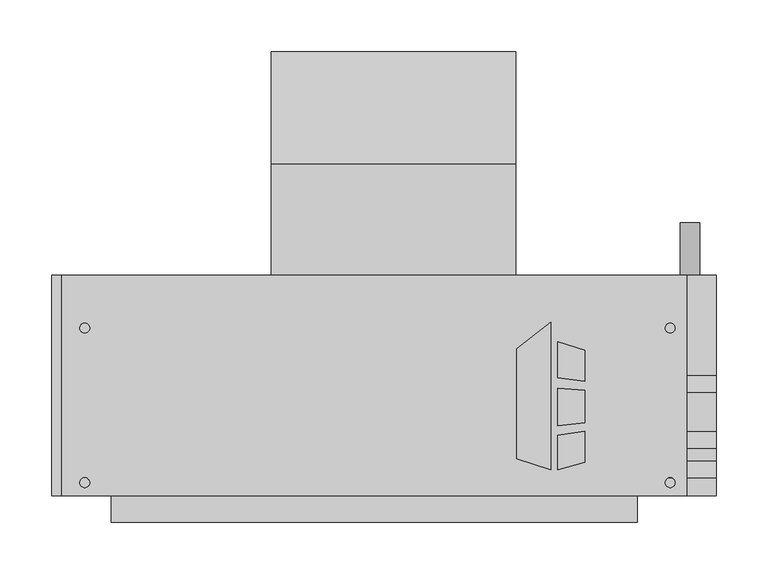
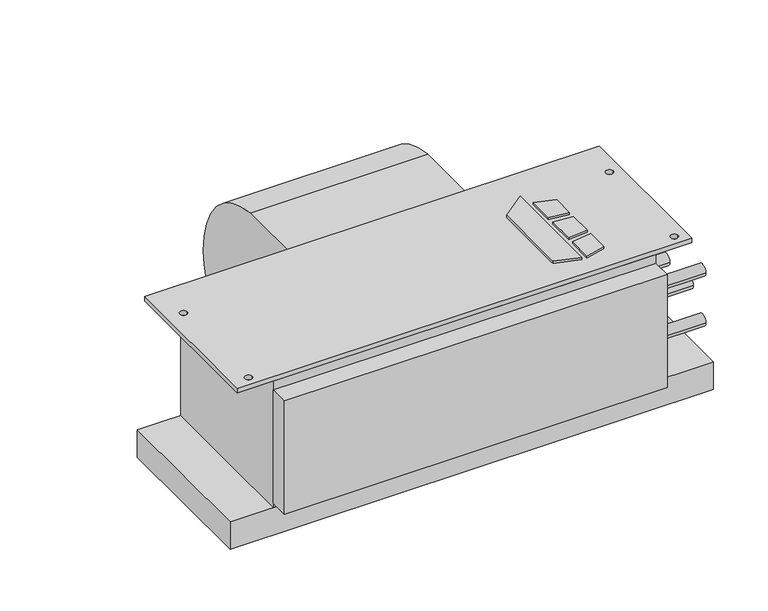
"""IFC4 building model written with IfcOpenShell, lengths in millimetres: proxy geometry, Concealed_Horizontal_Fan_Coil_Unit_-_CHY_-_IEC_-_4-Pipe_RH_2022 : Size 03 - 277v/60Hz/1Ph - 4/1 Coil."""

from ifc_helpers import new_model, si_unit, point, frame, frame_2d, origin, origin_with_axes, place, context, project, spatial, polyline, circle_curve, trimmed, segment, composite_curve, outline, extrude, source, transform, mapped, element, save


def mechanical_equipment_e5550dfa(model_context):
    return source(origin(), model_context, "Body", "SweptSolid", [
        extrude(outline(polyline([(290.2019761, -202.5703476), (322.7602728, -177.1330184), (322.7602728, -319.0875), (290.2019761, -308.8679201), (290.2019761, -202.5703476)])), origin_with_axes(), (0.0, 0.0, 1.0), 3.175),
        extrude(outline(polyline([(329.5186058, -230.442352), (329.5186058, -195.9624379), (355.6, -204.1490115), (355.6, -233.6447446), (329.5186058, -230.442352)])), origin_with_axes(), (0.0, 0.0, 1.0), 3.175),
        extrude(outline(polyline([(355.6, -312.0990115), (329.5186058, -319.0875), (329.5186058, -285.8661996), (355.6, -282.3243564), (355.6, -312.0990115)])), origin_with_axes(), (0.0, 0.0, 1.0), 3.175),
        extrude(outline(polyline([(355.6, -242.7263277), (355.6, -273.976483), (329.5186058, -276.717748), (329.5186058, -240.8600378), (355.6, -242.7263277)])), origin_with_axes(), (0.0, 0.0, 1.0), 3.175),
        extrude(outline(composite_curve([segment(trimmed(circle_curve(frame_2d((-33.198831, -136.0299844)), 117.3559541), [point((-23.8125, -19.05))], [point((84.1375, -138.176))], False, "CARTESIAN"), True, "CONTINUOUS"), segment(trimmed(circle_curve(frame_2d((-11.5977337, -136.4250563)), 95.7512443), [point((84.1375, -138.176))], [point((-23.8125, -231.394))], False, "CARTESIAN"), True, "CONTINUOUS"), segment(trimmed(circle_curve(frame_2d((-11.6288131, -136.6666968)), 95.5076133), [point((-23.8125, -231.394))], [point((-107.1245, -138.176))], False, "CARTESIAN"), True, "CONTINUOUS"), segment(trimmed(circle_curve(frame_2d((-126.2059828, -138.4775816)), 19.0838659), [point((-107.1245, -138.176))], [point((-119.3963373, -120.65))], True, "CARTESIAN"), True, "CONTINUOUS"), segment(polyline([(-119.3963373, -120.65), (-131.7625, -120.65), (-131.7625, -19.05), (-23.8125, -19.05)]), True, "CONTINUOUS")], self_intersect=False)), frame((53.213, 0.0, 0.0), z_axis=(1.0, 0.0, 0.0), x_axis=(0.0, 1.0, 0.0)), (0.0, 0.0, 1.0), 235.712),
        extrude(outline(polyline([(454.025, -131.7625), (454.025, -344.4875), (-149.225, -344.4875), (-149.225, -131.7625), (454.025, -131.7625)]), holes=[composite_curve([segment(trimmed(circle_curve(frame_2d((-127.0, -182.5625)), 4.7625), [point((-131.7625, -182.5625))], [point((-122.2375, -182.5625))], True, "CARTESIAN"), True, "CONTINUOUS"), segment(trimmed(circle_curve(frame_2d((-127.0, -182.5625)), 4.7625), [point((-122.2375, -182.5625))], [point((-131.7625, -182.5625))], True, "CARTESIAN"), True, "CONTINUOUS")], self_intersect=False), composite_curve([segment(trimmed(circle_curve(frame_2d((-127.0, -331.7875)), 4.7625), [point((-131.7625, -331.7875))], [point((-122.2375, -331.7875))], True, "CARTESIAN"), True, "CONTINUOUS"), segment(trimmed(circle_curve(frame_2d((-127.0, -331.7875)), 4.7625), [point((-122.2375, -331.7875))], [point((-131.7625, -331.7875))], True, "CARTESIAN"), True, "CONTINUOUS")], self_intersect=False), composite_curve([segment(trimmed(circle_curve(frame_2d((438.15, -182.5625)), 4.7625), [point((433.3875, -182.5625))], [point((442.9125, -182.5625))], True, "CARTESIAN"), True, "CONTINUOUS"), segment(trimmed(circle_curve(frame_2d((438.15, -182.5625)), 4.7625), [point((442.9125, -182.5625))], [point((433.3875, -182.5625))], True, "CARTESIAN"), True, "CONTINUOUS")], self_intersect=False), composite_curve([segment(trimmed(circle_curve(frame_2d((438.15, -331.7875)), 4.7625), [point((433.3875, -331.7875))], [point((442.9125, -331.7875))], True, "CARTESIAN"), True, "CONTINUOUS"), segment(trimmed(circle_curve(frame_2d((438.15, -331.7875)), 4.7625), [point((442.9125, -331.7875))], [point((433.3875, -331.7875))], True, "CARTESIAN"), True, "CONTINUOUS")], self_intersect=False)]), frame((0.0, 0.0, -6.35), z_axis=(0.0, 0.0, 1.0), x_axis=(1.0, 0.0, 0.0)), (0.0, 0.0, 1.0), 6.35),
        extrude(outline(composite_curve([segment(trimmed(circle_curve(frame_2d((-209.55, 457.2)), 9.525), [point((-209.55, 447.675))], [point((-209.55, 466.725))], False, "CARTESIAN"), True, "CONTINUOUS"), segment(trimmed(circle_curve(frame_2d((-209.55, 457.2)), 9.525), [point((-209.55, 466.725))], [point((-209.55, 447.675))], False, "CARTESIAN"), True, "CONTINUOUS")], self_intersect=False)), frame((0.0, -131.7625, 0.0), z_axis=(0.0, 1.0, 0.0), x_axis=(0.0, 0.0, 1.0)), (0.0, 0.0, 1.0), 50.8),
        extrude(outline(polyline([(406.4, -369.8875), (-101.6, -369.8875), (-101.6, -344.4875), (406.4, -344.4875), (406.4, -369.8875)])), frame((0.0, 0.0, -177.8), z_axis=(0.0, 0.0, 1.0), x_axis=(1.0, 0.0, 0.0)), (0.0, 0.0, 1.0), 158.75),
        extrude(outline(polyline([(482.6, -131.7625), (482.6, -344.4875), (-158.75, -344.4875), (-158.75, -131.7625), (482.6, -131.7625)])), frame((0.0, 0.0, -222.25), z_axis=(0.0, 0.0, 1.0), x_axis=(1.0, 0.0, 0.0)), (0.0, 0.0, 1.0), 38.1),
        extrude(outline(composite_curve([segment(trimmed(circle_curve(frame_2d((-236.5375, -104.775)), 7.9375), [point((-244.475, -104.775))], [point((-228.6, -104.775))], False, "CARTESIAN"), True, "CONTINUOUS"), segment(trimmed(circle_curve(frame_2d((-236.5375, -104.775)), 7.9375), [point((-228.6, -104.775))], [point((-244.475, -104.775))], False, "CARTESIAN"), True, "CONTINUOUS")], self_intersect=False)), frame((406.4, 0.0, 0.0), z_axis=(1.0, 0.0, 0.0), x_axis=(0.0, 1.0, 0.0)), (0.0, 0.0, 1.0), 76.2),
        extrude(outline(composite_curve([segment(trimmed(circle_curve(frame_2d((-290.5125, -104.775)), 7.9375), [point((-298.45, -104.775))], [point((-282.575, -104.775))], False, "CARTESIAN"), True, "CONTINUOUS"), segment(trimmed(circle_curve(frame_2d((-290.5125, -104.775)), 7.9375), [point((-282.575, -104.775))], [point((-298.45, -104.775))], False, "CARTESIAN"), True, "CONTINUOUS")], self_intersect=False)), frame((406.4, 0.0, 0.0), z_axis=(1.0, 0.0, 0.0), x_axis=(0.0, 1.0, 0.0)), (0.0, 0.0, 1.0), 76.2),
        extrude(outline(composite_curve([segment(trimmed(circle_curve(frame_2d((-319.0875, -69.85)), 7.9375), [point((-327.025, -69.85))], [point((-311.15, -69.85))], False, "CARTESIAN"), True, "CONTINUOUS"), segment(trimmed(circle_curve(frame_2d((-319.0875, -69.85)), 7.9375), [point((-311.15, -69.85))], [point((-327.025, -69.85))], False, "CARTESIAN"), True, "CONTINUOUS")], self_intersect=False)), frame((406.4, 0.0, 0.0), z_axis=(1.0, 0.0, 0.0), x_axis=(0.0, 1.0, 0.0)), (0.0, 0.0, 1.0), 76.2),
        extrude(outline(composite_curve([segment(trimmed(circle_curve(frame_2d((-319.0875, -139.7)), 7.9375), [point((-327.025, -139.7))], [point((-311.15, -139.7))], False, "CARTESIAN"), True, "CONTINUOUS"), segment(trimmed(circle_curve(frame_2d((-319.0875, -139.7)), 7.9375), [point((-311.15, -139.7))], [point((-327.025, -139.7))], False, "CARTESIAN"), True, "CONTINUOUS")], self_intersect=False)), frame((406.4, 0.0, 0.0), z_axis=(1.0, 0.0, 0.0), x_axis=(0.0, 1.0, 0.0)), (0.0, 0.0, 1.0), 76.2),
        extrude(outline(polyline([(406.4, -344.4875), (-101.6, -344.4875), (-101.6, -131.7625), (406.4, -131.7625), (406.4, -344.4875)])), frame((0.0, 0.0, -184.15), z_axis=(0.0, 0.0, 1.0), x_axis=(1.0, 0.0, 0.0)), (0.0, 0.0, 1.0), 177.8),
    ])


if __name__ == "__main__":
    model = new_model("IFC4")
    model_context = context("Model", 3, world=origin())
    ifc_project = project(units=[si_unit("LENGTHUNIT", "METRE", prefix="MILLI")], contexts=[model_context])
    site = spatial("IfcSite", under=ifc_project)
    building = spatial("IfcBuilding", under=site)
    placement = place(None, origin())
    mechanical_equipment_shape = mechanical_equipment_e5550dfa(model_context)
    element("IfcBuildingElementProxy", 1, Name="Concealed_Horizontal_Fan_Coil_Unit_-_CHY_-_IEC_-_4-Pipe_RH_2022 : Size 03 - 277v/60Hz/1Ph - 4/1 Coil", ObjectType="Concealed_Horizontal_Fan_Coil_Unit_-_CHY_-_IEC_-_4-Pipe_RH_2022 : Size 03 - 277v/60Hz/1Ph - 4/1 Coil", at=placement, inside=building, context=model_context, shape_type="MappedRepresentation", body=[
        mapped(mechanical_equipment_shape, transform((0.0, 0.0, 0.0), x_axis=(1.0, 0.0, 0.0), y_axis=(0.0, 1.0, 0.0), z_axis=(0.0, 0.0, 1.0))),
    ])
    save(model, "model.ifc")
